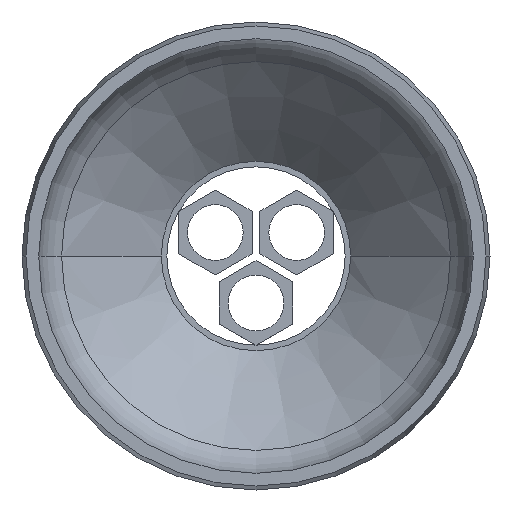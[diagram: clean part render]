
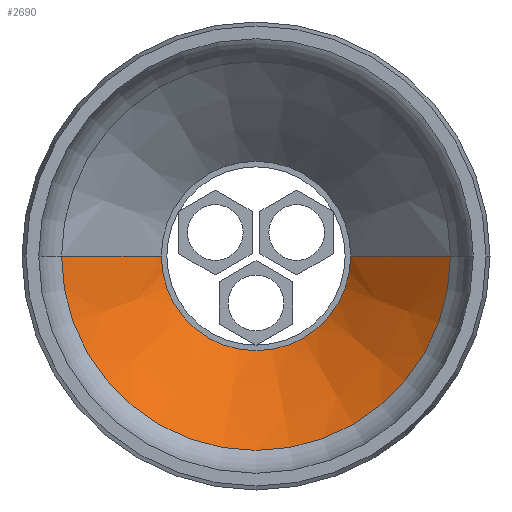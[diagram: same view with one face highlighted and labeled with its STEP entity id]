
A CAD part, front view. The second image highlights one B-rep face of the part: STEP entity #2690.
In plain terms, the highlighted conical face has half-angle 45 degrees and reference radius 8.5 mm.
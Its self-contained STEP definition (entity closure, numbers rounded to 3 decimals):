
#540=CARTESIAN_POINT('',(-211.476,26.421,
0.));
#550=VERTEX_POINT('',#540);
#710=CARTESIAN_POINT('',(-194.476,26.421,0.));
#720=VERTEX_POINT('',#710);
#750=CARTESIAN_POINT('',(-202.976,26.421,0.));
#760=DIRECTION('',(0.,-1.,0.));
#770=DIRECTION('',(1.,0.,0.));
#780=AXIS2_PLACEMENT_3D('',#750,#760,#770);
#790=CIRCLE('',#780,8.5);
#800=EDGE_CURVE('',#550,#720,#790,.T.);
#2380=CARTESIAN_POINT('',(-202.976,26.421,0.));
#2390=DIRECTION('',(0.,-1.,0.));
#2400=DIRECTION('',(-1.,0.,0.));
#2410=AXIS2_PLACEMENT_3D('',#2380,#2390,#2400);
#2420=CONICAL_SURFACE('',#2410,8.5,0.785);
#2430=CARTESIAN_POINT('',(-194.476,26.421,
0.));
#2440=DIRECTION('',(0.707,-0.707,
0.));
#2450=VECTOR('',#2440,1.);
#2460=LINE('',#2430,#2450);
#2470=CARTESIAN_POINT('',(-185.527,17.471,0.));
#2480=VERTEX_POINT('',#2470);
#2490=EDGE_CURVE('',#720,#2480,#2460,.T.);
#2500=ORIENTED_EDGE('',*,*,#2490,.F.);
#2510=CARTESIAN_POINT('',(-202.976,17.471,0.));
#2520=DIRECTION('',(0.,-1.,0.));
#2530=DIRECTION('',(-1.,0.,0.));
#2540=AXIS2_PLACEMENT_3D('',#2510,#2520,#2530);
#2550=CIRCLE('',#2540,17.45);
#2560=CARTESIAN_POINT('',(-220.426,17.471,0.));
#2570=VERTEX_POINT('',#2560);
#2580=EDGE_CURVE('',#2570,#2480,#2550,.T.);
#2590=ORIENTED_EDGE('',*,*,#2580,.T.);
#2600=CARTESIAN_POINT('',(-211.476,26.421,0.));
#2610=DIRECTION('',(-0.707,-0.707,0.));
#2620=VECTOR('',#2610,1.);
#2630=LINE('',#2600,#2620);
#2640=EDGE_CURVE('',#550,#2570,#2630,.T.);
#2650=ORIENTED_EDGE('',*,*,#2640,.T.);
#2660=ORIENTED_EDGE('',*,*,#800,.F.);
#2670=EDGE_LOOP('',(#2660,#2650,#2590,#2500));
#2680=FACE_OUTER_BOUND('',#2670,.T.);
#2690=ADVANCED_FACE('',(#2680),#2420,.F.);
